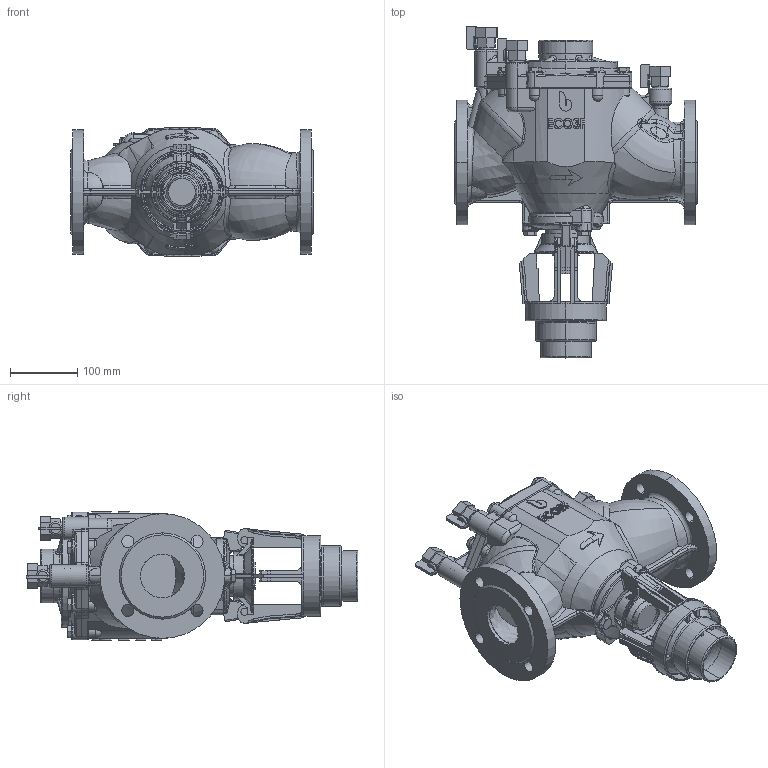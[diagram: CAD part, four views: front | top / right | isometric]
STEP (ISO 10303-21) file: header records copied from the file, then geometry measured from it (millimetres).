
FILE_DESCRIPTION (( 'STEP AP203' ), '1' );
FILE_NAME ('ECO3F.065.STEP', '2011-02-09T13:22:10', ( ' ' ), ( '' ), 'SwSTEP 2.0', 'SolidWorks 2009', '' );
FILE_SCHEMA (( 'CONFIG_CONTROL_DESIGN' ));
Products named in the file (1): ECO3F.065
Bounding box: 360 x 492.73 x 190 mm (x, y, z)
Volume: 4986010 mm3; surface area: 793061.2 mm2
Topology: 1 solids, 34 shells, 2612 faces, 6835 edges, 4261 vertices
Faces by surface type: plane 845, cylinder 592, bspline 543, cone 334, torus 244, sphere 54
Entity records: 127908 total; most frequent: CARTESIAN_POINT 69545, ORIENTED_EDGE 13444, DIRECTION 10526, EDGE_CURVE 6722, VERTEX_POINT 4238, AXIS2_PLACEMENT_3D 4076, EDGE_LOOP 2752, ADVANCED_FACE 2612
